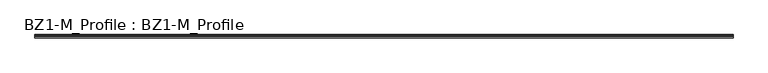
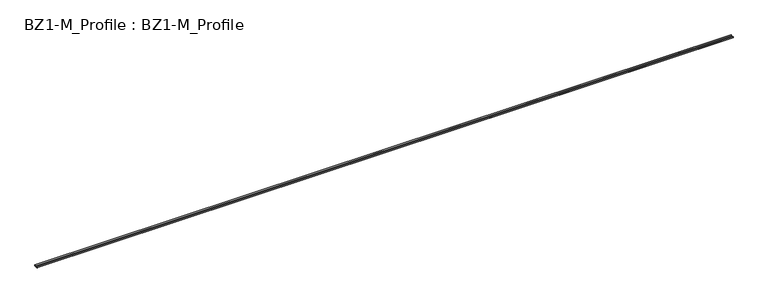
"""IFC4 building model written with IfcOpenShell, lengths in millimetres: beam geometry, BZ1-M_Profile : BZ1-M_Profile."""

from ifc_helpers import new_model, si_unit, frame, origin, place, context, project, spatial, polyline, outline, extrude, source, transform, mapped, element, save


def bz1_m_profile_bz1_m_profile_78a34b38(model_context):
    return source(origin(), model_context, "Body", "SweptSolid", [
        extrude(outline(polyline([(45.0, 25.0), (45.0, 0.0), (39.0, 0.0), (39.0, 1.0), (44.0, 1.0), (44.0, 24.0), (18.3051526, 24.0), (8.117757, 0.0), (-8.117757, 0.0), (-18.3051526, 24.0), (-44.0, 24.0), (-44.0, 1.0), (-39.0, 1.0), (-39.0, 0.0), (-45.0, 0.0), (-45.0, 25.0), (-17.643267, 25.0), (-7.4558714, 1.0), (7.4558714, 1.0), (17.643267, 25.0), (45.0, 25.0)])), frame((-8900.5946222, 0.0, 0.0), z_axis=(1.0, 0.0, 0.0), x_axis=(0.0, 1.0, 0.0)), (0.0, 0.0, 1.0), 17801.1892444),
    ])


if __name__ == "__main__":
    model = new_model("IFC4")
    model_context = context("Model", 3, world=origin())
    ifc_project = project(units=[si_unit("LENGTHUNIT", "METRE", prefix="MILLI")], contexts=[model_context])
    site = spatial("IfcSite", under=ifc_project)
    building = spatial("IfcBuilding", under=site)
    placement = place(None, origin())
    bz1_m_profile_bz1_m_profile_shape = bz1_m_profile_bz1_m_profile_78a34b38(model_context)
    element("IfcBeam", 1, ObjectType="BZ1-M_Profile : BZ1-M_Profile", at=placement, inside=building, context=model_context, shape_type="MappedRepresentation", body=[
        mapped(bz1_m_profile_bz1_m_profile_shape, transform((0.0, 0.0, 0.0), x_axis=(1.0, 0.0, 0.0), y_axis=(0.0, 1.0, 0.0), z_axis=(0.0, 0.0, 1.0))),
    ])
    save(model, "model.ifc")
